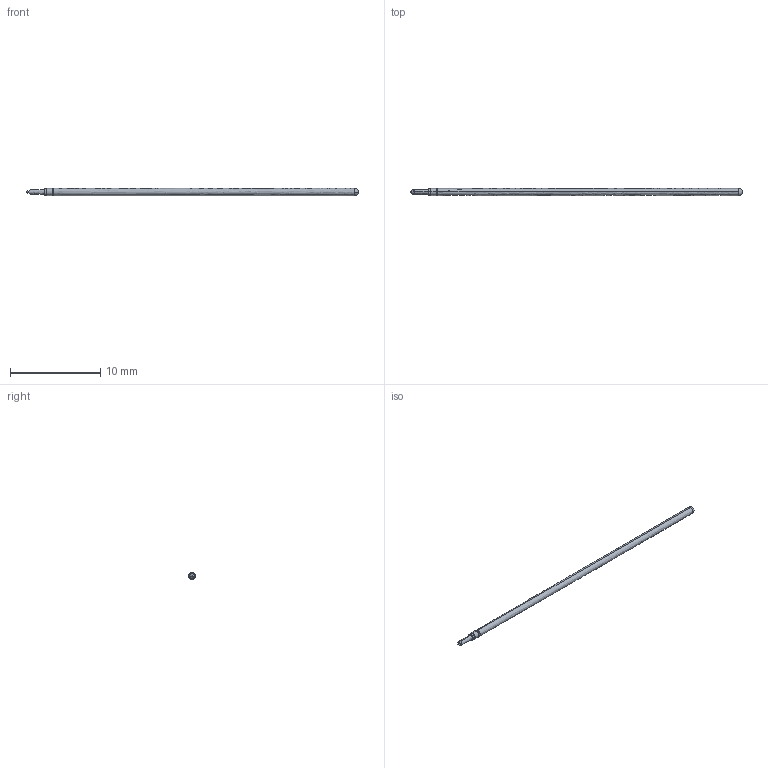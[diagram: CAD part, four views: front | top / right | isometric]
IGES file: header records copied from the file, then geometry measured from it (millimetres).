
Start section: SolidWorks IGES file using analytic representation for surfaces
Global section: file name: L:\probe solid model mockups\Solidworks models\POGO-72I8 Full.IGS; native system: SolidWorks 2006 by SolidWorks Corporation; preprocessor: SolidWorks 2006 by SolidWorks Corporation; author: Ksnyder; date: 071211.135816; units: inch
Bounding box: 36.83 x 0.79 x 0.79 mm (x, y, z)
Surface area: 172.1 mm2
Topology: 1 solids, 1 shells, 26 faces, 56 edges, 31 vertices
Faces by surface type: revolution 16, plane 10
